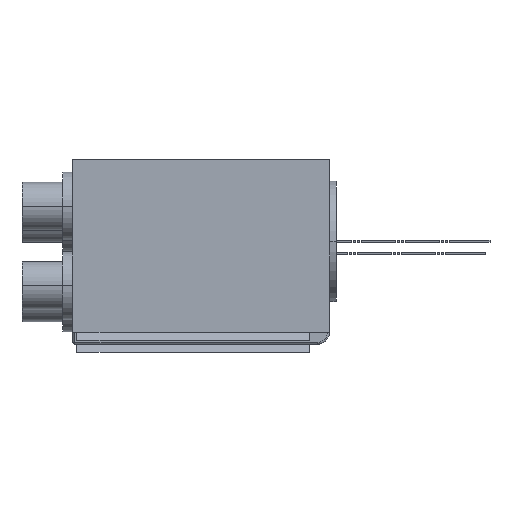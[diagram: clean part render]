
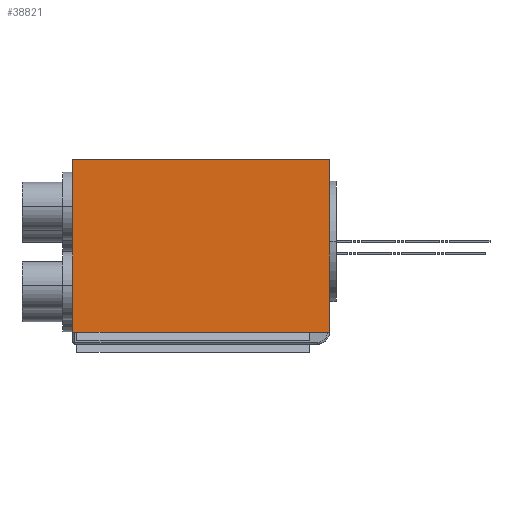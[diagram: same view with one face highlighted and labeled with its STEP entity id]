
A CAD part, left-side view. The second image highlights one B-rep face of the part: STEP entity #38821.
In plain terms, the highlighted planar face has unit normal (-1, 0, 0).
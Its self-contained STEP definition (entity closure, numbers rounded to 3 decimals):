
#24086=CARTESIAN_POINT('',(-22.5,20.5,-37.));
#24087=VERTEX_POINT('',#24086);
#24094=CARTESIAN_POINT('',(-22.5,20.5,27.));
#24095=VERTEX_POINT('',#24094);
#24096=CARTESIAN_POINT('',(-22.5,20.5,27.));
#24097=DIRECTION('',(0.0,0.0,-1.0));
#24098=VECTOR('',#24097,64.0);
#24099=LINE('',#24096,#24098);
#24100=EDGE_CURVE('',#24095,#24087,#24099,.T.);
#38475=CARTESIAN_POINT('',(-22.5,-22.5,-37.0));
#38476=VERTEX_POINT('',#38475);
#38493=CARTESIAN_POINT('',(-22.5,-22.5,27.));
#38494=VERTEX_POINT('',#38493);
#38501=CARTESIAN_POINT('',(-22.5,-22.5,-37.0));
#38502=DIRECTION('',(0.0,0.0,1.0));
#38503=VECTOR('',#38502,64.0);
#38504=LINE('',#38501,#38503);
#38505=EDGE_CURVE('',#38476,#38494,#38504,.T.);
#38681=CARTESIAN_POINT('',(-22.5,20.5,-37.));
#38682=DIRECTION('',(0.0,-1.0,0.0));
#38683=VECTOR('',#38682,43.);
#38684=LINE('',#38681,#38683);
#38685=EDGE_CURVE('',#24087,#38476,#38684,.T.);
#38732=CARTESIAN_POINT('',(-22.5,-22.5,27.));
#38733=DIRECTION('',(0.0,1.0,0.0));
#38734=VECTOR('',#38733,43.0);
#38735=LINE('',#38732,#38734);
#38736=EDGE_CURVE('',#38494,#24095,#38735,.T.);
#38810=CARTESIAN_POINT('',(-22.5,-22.5,-25.));
#38811=DIRECTION('',(-1.0,0.0,0.0));
#38812=DIRECTION('',(0.0,0.0,1.0));
#38813=AXIS2_PLACEMENT_3D('',#38810,#38811,#38812);
#38814=PLANE('',#38813);
#38815=ORIENTED_EDGE('',*,*,#24100,.T.);
#38816=ORIENTED_EDGE('',*,*,#38685,.T.);
#38817=ORIENTED_EDGE('',*,*,#38505,.T.);
#38818=ORIENTED_EDGE('',*,*,#38736,.T.);
#38819=EDGE_LOOP('',(#38815,#38816,#38817,#38818));
#38820=FACE_OUTER_BOUND('',#38819,.T.);
#38821=ADVANCED_FACE('',(#38820),#38814,.T.);
